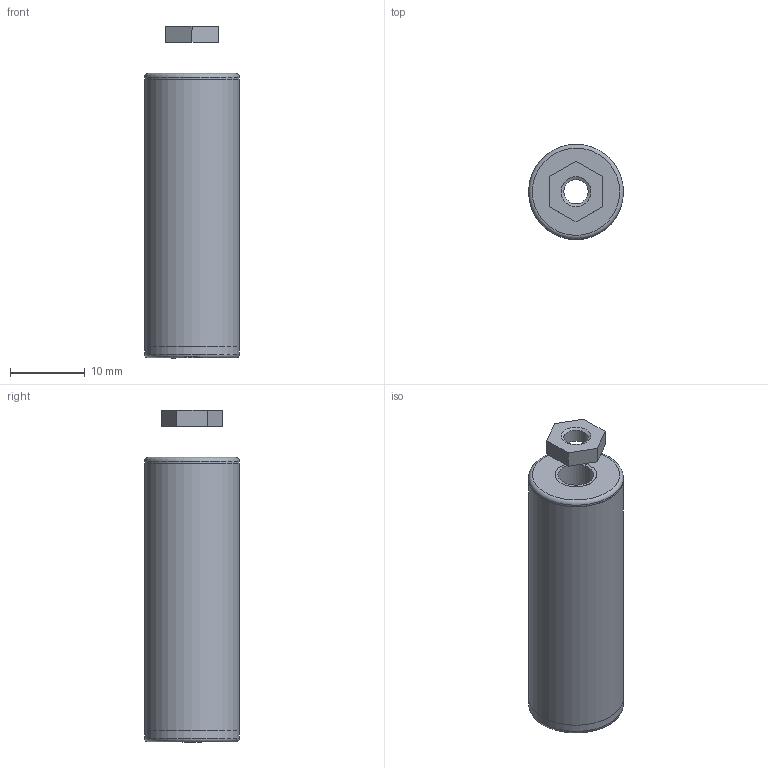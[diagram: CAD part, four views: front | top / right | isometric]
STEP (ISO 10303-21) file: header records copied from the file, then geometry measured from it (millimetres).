
FILE_DESCRIPTION(/* description */ (''),/* implementation_level */ '2;1');
FILE_NAME(/* name */ 'ILPS-13Z-12.7-A-00-YY-S Assembly (wrapped).iam.stp',/* time_stamp */ '2023-05-05T16:04:38-04:00',/* author */ ('TSC_Grant'),/* organization */ (''),/* preprocessor_version */ 'ST-DEVELOPER v19.2',/* originating_system */ 'Autodesk Inventor 2024',/* authorisation */ '');
FILE_SCHEMA (('AUTOMOTIVE_DESIGN { 1 0 10303 214 3 1 1 }'));
Length unit declared in the file: inch
Products named in the file (3): 3020-0017-XX Assembly_SW; 3020-0017-XX Sensor Tube_SW; BS 4183 - M4
Assembly tree (2 placements, depth 2):
  3020-0017-XX Assembly_SW
    3020-0017-XX Sensor Tube_SW
    BS 4183 - M4
Bounding box: 12.7 x 12.7 x 44.45 mm (x, y, z)
Volume: 718.6 mm3; surface area: 4765.3 mm2
Topology: 5 solids, 5 shells, 34 faces, 69 edges, 45 vertices
Faces by surface type: plane 19, cylinder 11, torus 2, cone 2
Full cylindrical faces by diameter (mm): 3.242 x1, 4.826 x1, 5.588 x3, 12.446 x1, 12.7 x3
Entity records: 1085 total; most frequent: DIRECTION 175, CARTESIAN_POINT 167, ORIENTED_EDGE 138, EDGE_CURVE 69, AXIS2_PLACEMENT_3D 69, VERTEX_POINT 45, EDGE_LOOP 44, LINE 37
